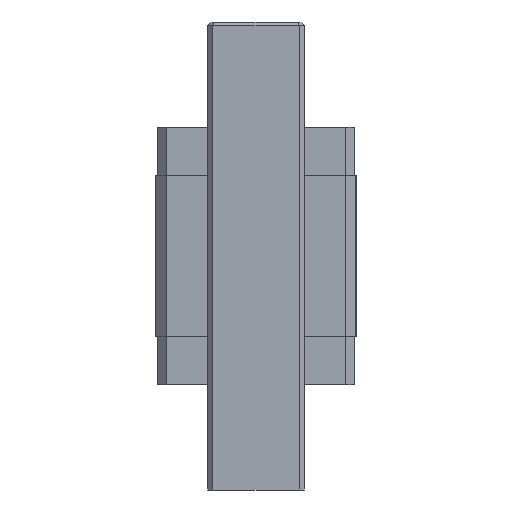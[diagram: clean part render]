
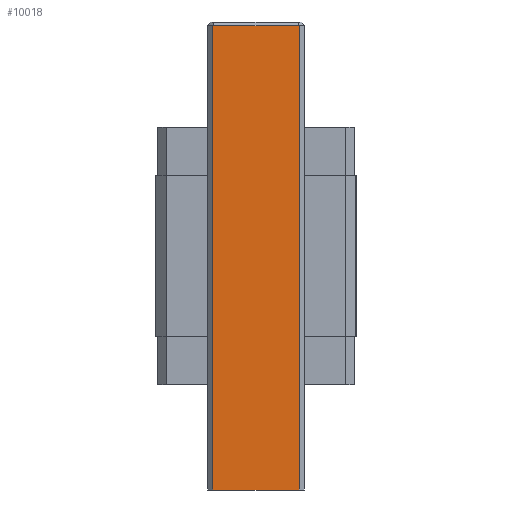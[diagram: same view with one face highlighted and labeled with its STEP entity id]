
A CAD part, front view. The second image highlights one B-rep face of the part: STEP entity #10018.
In plain terms, the highlighted planar face has unit normal (0, -1, 0).
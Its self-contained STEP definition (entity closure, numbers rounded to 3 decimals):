
#8979=DIRECTION('',(1.,0.,0.));
#8980=VECTOR('',#8979,20.6);
#8981=CARTESIAN_POINT('',(-10.3,-14.6,-56.));
#8982=LINE('',#8981,#8980);
#9252=DIRECTION('',(1.,0.,0.));
#9253=VECTOR('',#9252,20.6);
#9254=CARTESIAN_POINT('',(-10.3,-14.6,55.134));
#9255=LINE('',#9254,#9253);
#9256=DIRECTION('',(0.,0.,1.));
#9257=VECTOR('',#9256,111.134);
#9258=CARTESIAN_POINT('',(-10.3,-14.6,-56.));
#9259=LINE('',#9258,#9257);
#9264=DIRECTION('',(0.,0.,1.));
#9265=VECTOR('',#9264,111.134);
#9266=CARTESIAN_POINT('',(10.3,-14.6,-56.));
#9267=LINE('',#9266,#9265);
#9450=CARTESIAN_POINT('',(-10.3,-14.6,-56.));
#9451=VERTEX_POINT('',#9450);
#9452=CARTESIAN_POINT('',(10.3,-14.6,-56.));
#9453=VERTEX_POINT('',#9452);
#9514=CARTESIAN_POINT('',(10.3,-14.6,55.134));
#9515=VERTEX_POINT('',#9514);
#9518=CARTESIAN_POINT('',(-10.3,-14.6,55.134));
#9519=VERTEX_POINT('',#9518);
#10006=CARTESIAN_POINT('',(-10.3,-14.6,-56.));
#10007=DIRECTION('',(0.,-1.,0.));
#10008=DIRECTION('',(1.,0.,0.));
#10009=AXIS2_PLACEMENT_3D('',#10006,#10007,#10008);
#10010=PLANE('',#10009);
#10011=ORIENTED_EDGE('',*,*,#9997,.T.);
#10013=ORIENTED_EDGE('',*,*,#10012,.F.);
#10014=ORIENTED_EDGE('',*,*,#9599,.F.);
#10015=ORIENTED_EDGE('',*,*,#9972,.T.);
#10016=EDGE_LOOP('',(#10011,#10013,#10014,#10015));
#10017=FACE_OUTER_BOUND('',#10016,.F.);
#9599=EDGE_CURVE('',#9451,#9453,#8982,.T.);
#9972=EDGE_CURVE('',#9451,#9519,#9259,.T.);
#9997=EDGE_CURVE('',#9519,#9515,#9255,.T.);
#10012=EDGE_CURVE('',#9453,#9515,#9267,.T.);
#10018=ADVANCED_FACE('',(#10017),#10010,.T.);
